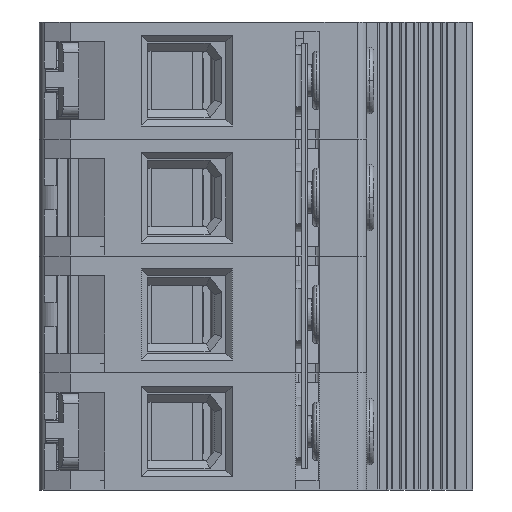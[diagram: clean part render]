
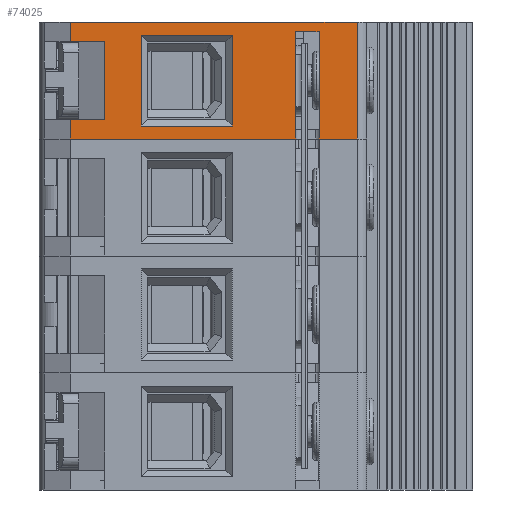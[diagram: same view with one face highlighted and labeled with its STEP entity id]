
A CAD part, left-side view. The second image highlights one B-rep face of the part: STEP entity #74025.
In plain terms, the highlighted planar face has unit normal (-1, 0, 0).
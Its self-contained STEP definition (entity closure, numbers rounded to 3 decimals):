
#8783=DIRECTION('',(0.,-1.,0.));
#8784=VECTOR('',#8783,5.85);
#8785=CARTESIAN_POINT('',(0.,7.35,-18.));
#8786=LINE('',#8785,#8784);
#9419=DIRECTION('',(0.,1.,0.));
#9420=VECTOR('',#9419,44.1);
#9421=CARTESIAN_POINT('',(0.,1.5,0.));
#9422=LINE('',#9421,#9420);
#9835=DIRECTION('',(0.,0.,1.));
#9836=VECTOR('',#9835,18.);
#9837=CARTESIAN_POINT('',(0.,1.5,-18.));
#9838=LINE('',#9837,#9836);
#9843=DIRECTION('',(0.,1.,0.));
#9844=VECTOR('',#9843,34.65);
#9845=CARTESIAN_POINT('',(0.,10.95,-18.));
#9846=LINE('',#9845,#9844);
#9847=DIRECTION('',(0.,0.,1.));
#9848=VECTOR('',#9847,12.);
#9849=CARTESIAN_POINT('',(0.,40.3,-15.));
#9850=LINE('',#9849,#9848);
#9851=DIRECTION('',(0.,1.,0.));
#9852=VECTOR('',#9851,5.3);
#9853=CARTESIAN_POINT('',(0.,40.3,-3.));
#9854=LINE('',#9853,#9852);
#9855=DIRECTION('',(0.,0.,1.));
#9856=VECTOR('',#9855,3.);
#9857=CARTESIAN_POINT('',(0.,45.6,-3.));
#9858=LINE('',#9857,#9856);
#9859=DIRECTION('',(0.,1.,0.));
#9860=VECTOR('',#9859,3.6);
#9861=CARTESIAN_POINT('',(0.,7.35,-1.5));
#9862=LINE('',#9861,#9860);
#9863=DIRECTION('',(0.,0.,-1.));
#9864=VECTOR('',#9863,16.5);
#9865=CARTESIAN_POINT('',(0.,10.95,-1.5));
#9866=LINE('',#9865,#9864);
#9867=DIRECTION('',(0.,-1.,0.));
#9868=VECTOR('',#9867,14.);
#9869=CARTESIAN_POINT('',(0.,34.7,-16.));
#9870=LINE('',#9869,#9868);
#9871=DIRECTION('',(0.,0.,1.));
#9872=VECTOR('',#9871,14.);
#9873=CARTESIAN_POINT('',(0.,20.7,-16.));
#9874=LINE('',#9873,#9872);
#9875=DIRECTION('',(0.,1.,0.));
#9876=VECTOR('',#9875,14.);
#9877=CARTESIAN_POINT('',(0.,20.7,-2.));
#9878=LINE('',#9877,#9876);
#9879=DIRECTION('',(0.,0.,-1.));
#9880=VECTOR('',#9879,3.);
#9881=CARTESIAN_POINT('',(0.,45.6,-15.));
#9882=LINE('',#9881,#9880);
#9883=DIRECTION('',(0.,1.,0.));
#9884=VECTOR('',#9883,5.3);
#9885=CARTESIAN_POINT('',(0.,40.3,-15.));
#9886=LINE('',#9885,#9884);
#14108=DIRECTION('',(0.,0.,-1.));
#14109=VECTOR('',#14108,16.5);
#14110=CARTESIAN_POINT('',(0.,7.35,-1.5));
#14111=LINE('',#14110,#14109);
#23653=DIRECTION('',(0.,0.,1.));
#23654=VECTOR('',#23653,14.);
#23655=CARTESIAN_POINT('',(0.,34.7,-16.));
#23656=LINE('',#23655,#23654);
#47713=CARTESIAN_POINT('',(0.,7.35,-18.));
#47715=VERTEX_POINT('',#47713);
#47716=CARTESIAN_POINT('',(0.,1.5,-18.));
#47717=VERTEX_POINT('',#47716);
#47733=CARTESIAN_POINT('',(0.,10.95,-18.));
#47735=VERTEX_POINT('',#47733);
#47839=CARTESIAN_POINT('',(0.,1.5,0.));
#47841=VERTEX_POINT('',#47839);
#47842=CARTESIAN_POINT('',(0.,45.6,0.));
#47843=VERTEX_POINT('',#47842);
#48746=CARTESIAN_POINT('',(0.,10.95,-1.5));
#48747=VERTEX_POINT('',#48746);
#48748=CARTESIAN_POINT('',(0.,7.35,-1.5));
#48749=VERTEX_POINT('',#48748);
#48876=CARTESIAN_POINT('',(0.,34.7,-16.));
#48877=VERTEX_POINT('',#48876);
#48878=CARTESIAN_POINT('',(0.,34.7,-2.));
#48879=VERTEX_POINT('',#48878);
#48880=CARTESIAN_POINT('',(0.,20.7,-16.));
#48881=VERTEX_POINT('',#48880);
#48882=CARTESIAN_POINT('',(0.,40.3,-3.));
#48883=CARTESIAN_POINT('',(0.,45.6,-3.));
#48884=VERTEX_POINT('',#48882);
#48885=VERTEX_POINT('',#48883);
#48886=CARTESIAN_POINT('',(0.,20.7,-2.));
#48887=VERTEX_POINT('',#48886);
#51036=CARTESIAN_POINT('',(0.,45.6,-18.));
#51037=VERTEX_POINT('',#51036);
#51192=CARTESIAN_POINT('',(0.,45.6,-15.));
#51193=VERTEX_POINT('',#51192);
#51590=CARTESIAN_POINT('',(0.,40.3,-15.));
#51591=VERTEX_POINT('',#51590);
#73988=CARTESIAN_POINT('',(0.,50.4,-18.));
#73989=DIRECTION('',(-1.,0.,0.));
#73990=DIRECTION('',(0.,-1.,0.));
#73991=AXIS2_PLACEMENT_3D('',#73988,#73989,#73990);
#73992=PLANE('',#73991);
#73993=ORIENTED_EDGE('',*,*,#73020,.T.);
#73995=ORIENTED_EDGE('',*,*,#73994,.F.);
#73997=ORIENTED_EDGE('',*,*,#73996,.F.);
#73999=ORIENTED_EDGE('',*,*,#73998,.T.);
#74001=ORIENTED_EDGE('',*,*,#74000,.T.);
#74003=ORIENTED_EDGE('',*,*,#74002,.T.);
#74004=ORIENTED_EDGE('',*,*,#73463,.F.);
#74005=ORIENTED_EDGE('',*,*,#73981,.F.);
#74006=ORIENTED_EDGE('',*,*,#73048,.F.);
#74008=ORIENTED_EDGE('',*,*,#74007,.F.);
#74010=ORIENTED_EDGE('',*,*,#74009,.T.);
#74012=ORIENTED_EDGE('',*,*,#74011,.T.);
#74013=EDGE_LOOP('',(#73993,#73995,#73997,#73999,#74001,#74003,#74004,#74005,
#74006,#74008,#74010,#74012));
#74014=FACE_OUTER_BOUND('',#74013,.F.);
#74016=ORIENTED_EDGE('',*,*,#74015,.T.);
#74018=ORIENTED_EDGE('',*,*,#74017,.T.);
#74020=ORIENTED_EDGE('',*,*,#74019,.T.);
#74022=ORIENTED_EDGE('',*,*,#74021,.F.);
#74023=EDGE_LOOP('',(#74016,#74018,#74020,#74022));
#74024=FACE_BOUND('',#74023,.F.);
#74025=ADVANCED_FACE('',(#74014,#74024),#73992,.T.);
#73020=EDGE_CURVE('',#47735,#51037,#9846,.T.);
#73048=EDGE_CURVE('',#47715,#47717,#8786,.T.);
#73463=EDGE_CURVE('',#47841,#47843,#9422,.T.);
#73981=EDGE_CURVE('',#47717,#47841,#9838,.T.);
#73994=EDGE_CURVE('',#51193,#51037,#9882,.T.);
#73996=EDGE_CURVE('',#51591,#51193,#9886,.T.);
#73998=EDGE_CURVE('',#51591,#48884,#9850,.T.);
#74000=EDGE_CURVE('',#48884,#48885,#9854,.T.);
#74002=EDGE_CURVE('',#48885,#47843,#9858,.T.);
#74007=EDGE_CURVE('',#48749,#47715,#14111,.T.);
#74009=EDGE_CURVE('',#48749,#48747,#9862,.T.);
#74011=EDGE_CURVE('',#48747,#47735,#9866,.T.);
#74015=EDGE_CURVE('',#48877,#48881,#9870,.T.);
#74017=EDGE_CURVE('',#48881,#48887,#9874,.T.);
#74019=EDGE_CURVE('',#48887,#48879,#9878,.T.);
#74021=EDGE_CURVE('',#48877,#48879,#23656,.T.);
